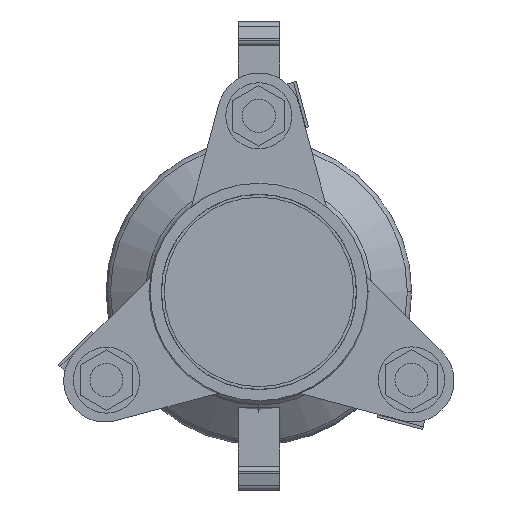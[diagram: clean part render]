
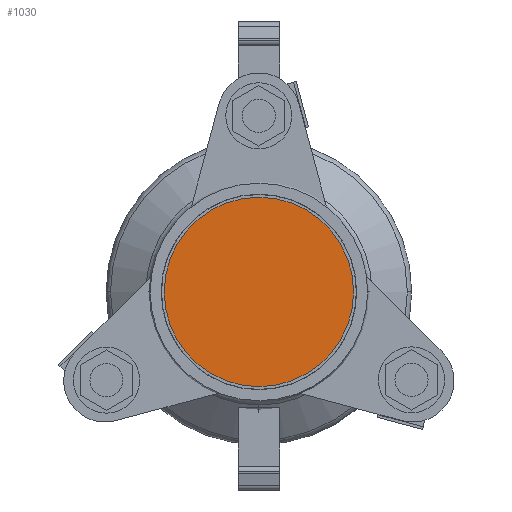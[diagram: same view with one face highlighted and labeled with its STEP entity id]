
A CAD part, left-side view. The second image highlights one B-rep face of the part: STEP entity #1030.
In plain terms, the highlighted planar face has unit normal (-1, 0, 0).
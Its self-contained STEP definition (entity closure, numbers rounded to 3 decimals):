
#1030=ADVANCED_FACE('',(#1952),#1953,.F.);
#1952=FACE_OUTER_BOUND('',#3009,.T.);
#1953=PLANE('',#3010);
#3009=EDGE_LOOP('',(#4860,#4861));
#3010=AXIS2_PLACEMENT_3D('',#4862,#4863,#4864);
#4860=ORIENTED_EDGE('',*,*,#5694,.T.);
#4861=ORIENTED_EDGE('',*,*,#5799,.T.);
#4862=CARTESIAN_POINT('',(87.0,0.0,0.));
#4863=DIRECTION('',(1.0,0.0,0.));
#4864=DIRECTION('',(0.,0.0,-1.0));
#5694=EDGE_CURVE('',#6632,#6637,#6639,.T.);
#5799=EDGE_CURVE('',#6637,#6632,#6823,.T.);
#6632=VERTEX_POINT('',#7977);
#6637=VERTEX_POINT('',#7983);
#6639=CIRCLE('',#7986,36.0);
#6823=CIRCLE('',#8225,36.0);
#7977=CARTESIAN_POINT('',(87.0,0.0,-36.0));
#7983=CARTESIAN_POINT('',(87.0,0.,36.0));
#7986=AXIS2_PLACEMENT_3D('',#9878,#9879,#9880);
#8225=AXIS2_PLACEMENT_3D('',#10017,#10018,#10019);
#9878=CARTESIAN_POINT('',(87.0,0.0,0.));
#9879=DIRECTION('',(-1.0,-0.0,0.));
#9880=DIRECTION('',(0.,0.0,-1.0));
#10017=CARTESIAN_POINT('',(87.0,0.0,0.));
#10018=DIRECTION('',(-1.0,-0.0,0.));
#10019=DIRECTION('',(0.,0.0,-1.0));
